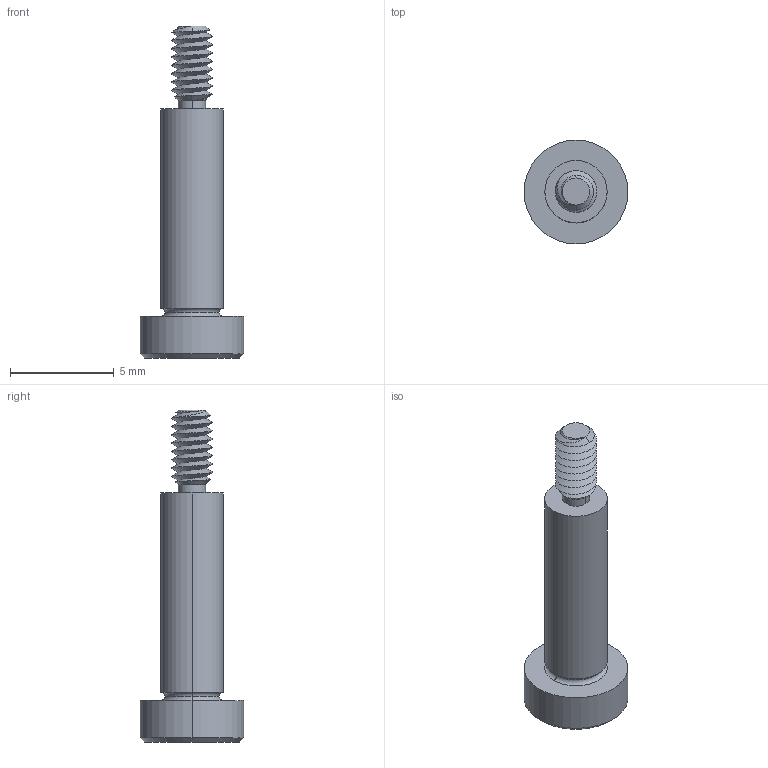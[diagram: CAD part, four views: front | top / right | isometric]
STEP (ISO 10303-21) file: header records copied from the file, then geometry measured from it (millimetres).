
FILE_DESCRIPTION (( 'STEP AP203' ), '1' );
FILE_NAME ('P0130.030-010-B2.step', '2021-11-09T20:55:55', ( '' ), ( '' ), 'SwSTEP 2.0', 'SolidWorks 2019', '' );
FILE_SCHEMA (( 'CONFIG_CONTROL_DESIGN' ));
Length unit declared in the file: millimetre
Products named in the file (1): P0130.030-010-B2
Bounding box: 5 x 5 x 16 mm (x, y, z)
Volume: 114 mm3; surface area: 210.4 mm2
Topology: 1 solids, 1 shells, 58 faces, 136 edges, 81 vertices
Faces by surface type: cylinder 22, plane 16, cone 14, torus 4, bspline 2
Entity records: 2452 total; most frequent: CARTESIAN_POINT 1166, ORIENTED_EDGE 268, DIRECTION 241, EDGE_CURVE 134, AXIS2_PLACEMENT_3D 97, VERTEX_POINT 81, EDGE_LOOP 61, FACE_OUTER_BOUND 58
